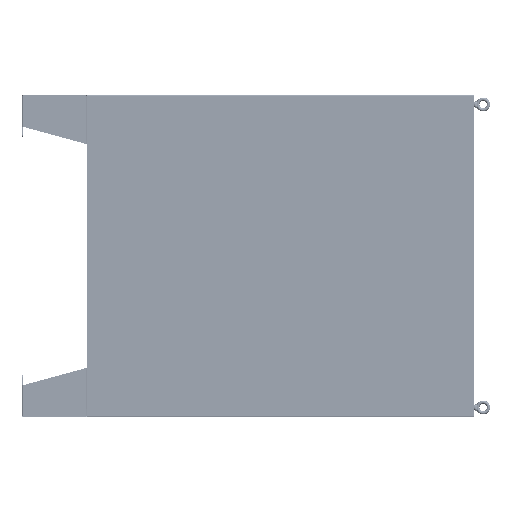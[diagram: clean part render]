
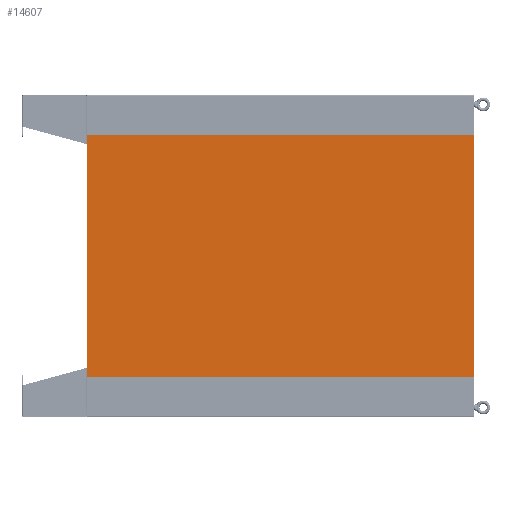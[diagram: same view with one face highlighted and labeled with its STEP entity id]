
A CAD part, left-side view. The second image highlights one B-rep face of the part: STEP entity #14607.
In plain terms, the highlighted planar face has unit normal (-1, 0, 0) as drawn and (0, 1, 0) by its records, which use the part's own axes.
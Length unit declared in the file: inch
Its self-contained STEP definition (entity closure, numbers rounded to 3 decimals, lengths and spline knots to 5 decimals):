
#14268=CARTESIAN_POINT('',(22.47,0.,35.866));
#14269=DIRECTION('',(0.,1.,0.));
#14270=DIRECTION('',(0.,0.,1.));
#14271=AXIS2_PLACEMENT_3D('',#14268,#14269,#14270);
#14276=CARTESIAN_POINT('',(-22.47,0.,35.866));
#14277=DIRECTION('',(0.,1.,0.));
#14278=DIRECTION('',(-1.,0.,0.));
#14279=AXIS2_PLACEMENT_3D('',#14276,#14277,#14278);
#14284=CARTESIAN_POINT('',(-22.47,0.,-35.866));
#14285=DIRECTION('',(0.,1.,0.));
#14286=DIRECTION('',(0.,0.,-1.));
#14287=AXIS2_PLACEMENT_3D('',#14284,#14285,#14286);
#14292=CARTESIAN_POINT('',(22.47,0.,-35.866));
#14293=DIRECTION('',(0.,1.,0.));
#14294=DIRECTION('',(1.,0.,0.));
#14295=AXIS2_PLACEMENT_3D('',#14292,#14293,#14294);
#14300=DIRECTION('',(0.,0.,-1.));
#14301=VECTOR('',#14300,71.732);
#14302=CARTESIAN_POINT('',(22.5,0.,35.866));
#14303=LINE('',#14302,#14301);
#14328=DIRECTION('',(-1.,0.,0.));
#14329=VECTOR('',#14328,44.94);
#14330=CARTESIAN_POINT('',(22.47,0.,-35.896));
#14331=LINE('',#14330,#14329);
#14370=DIRECTION('',(0.,0.,-1.));
#14371=VECTOR('',#14370,71.732);
#14372=CARTESIAN_POINT('',(-22.5,0.,35.866));
#14373=LINE('',#14372,#14371);
#14398=DIRECTION('',(-1.,0.,0.));
#14399=VECTOR('',#14398,44.94);
#14400=CARTESIAN_POINT('',(22.47,0.,35.896));
#14401=LINE('',#14400,#14399);
#14536=CARTESIAN_POINT('',(22.47,0.,35.896));
#14537=CARTESIAN_POINT('',(22.5,0.,35.866));
#14538=VERTEX_POINT('',#14536);
#14539=VERTEX_POINT('',#14537);
#14544=CARTESIAN_POINT('',(-22.5,0.,35.866));
#14545=CARTESIAN_POINT('',(-22.47,0.,35.896));
#14546=VERTEX_POINT('',#14544);
#14547=VERTEX_POINT('',#14545);
#14552=CARTESIAN_POINT('',(22.5,0.,-35.866));
#14553=CARTESIAN_POINT('',(22.47,0.,-35.896));
#14554=VERTEX_POINT('',#14552);
#14555=VERTEX_POINT('',#14553);
#14560=CARTESIAN_POINT('',(-22.47,0.,-35.896));
#14561=CARTESIAN_POINT('',(-22.5,0.,-35.866));
#14562=VERTEX_POINT('',#14560);
#14563=VERTEX_POINT('',#14561);
#14584=CARTESIAN_POINT('',(22.5,0.,35.896));
#14585=DIRECTION('',(0.,1.,0.));
#14586=DIRECTION('',(-1.,0.,0.));
#14587=AXIS2_PLACEMENT_3D('',#14584,#14585,#14586);
#14588=PLANE('',#14587);
#14590=ORIENTED_EDGE('',*,*,#14589,.F.);
#14592=ORIENTED_EDGE('',*,*,#14591,.T.);
#14594=ORIENTED_EDGE('',*,*,#14593,.F.);
#14596=ORIENTED_EDGE('',*,*,#14595,.T.);
#14598=ORIENTED_EDGE('',*,*,#14597,.F.);
#14600=ORIENTED_EDGE('',*,*,#14599,.F.);
#14602=ORIENTED_EDGE('',*,*,#14601,.F.);
#14604=ORIENTED_EDGE('',*,*,#14603,.F.);
#14605=EDGE_LOOP('',(#14590,#14592,#14594,#14596,#14598,#14600,#14602,#14604));
#14606=FACE_OUTER_BOUND('',#14605,.F.);
#14272=CIRCLE('',#14271,0.03);
#14280=CIRCLE('',#14279,0.03);
#14288=CIRCLE('',#14287,0.03);
#14296=CIRCLE('',#14295,0.03);
#14589=EDGE_CURVE('',#14538,#14539,#14272,.T.);
#14591=EDGE_CURVE('',#14538,#14547,#14401,.T.);
#14593=EDGE_CURVE('',#14546,#14547,#14280,.T.);
#14595=EDGE_CURVE('',#14546,#14563,#14373,.T.);
#14597=EDGE_CURVE('',#14562,#14563,#14288,.T.);
#14599=EDGE_CURVE('',#14555,#14562,#14331,.T.);
#14601=EDGE_CURVE('',#14554,#14555,#14296,.T.);
#14603=EDGE_CURVE('',#14539,#14554,#14303,.T.);
#14607=ADVANCED_FACE('',(#14606),#14588,.T.);
